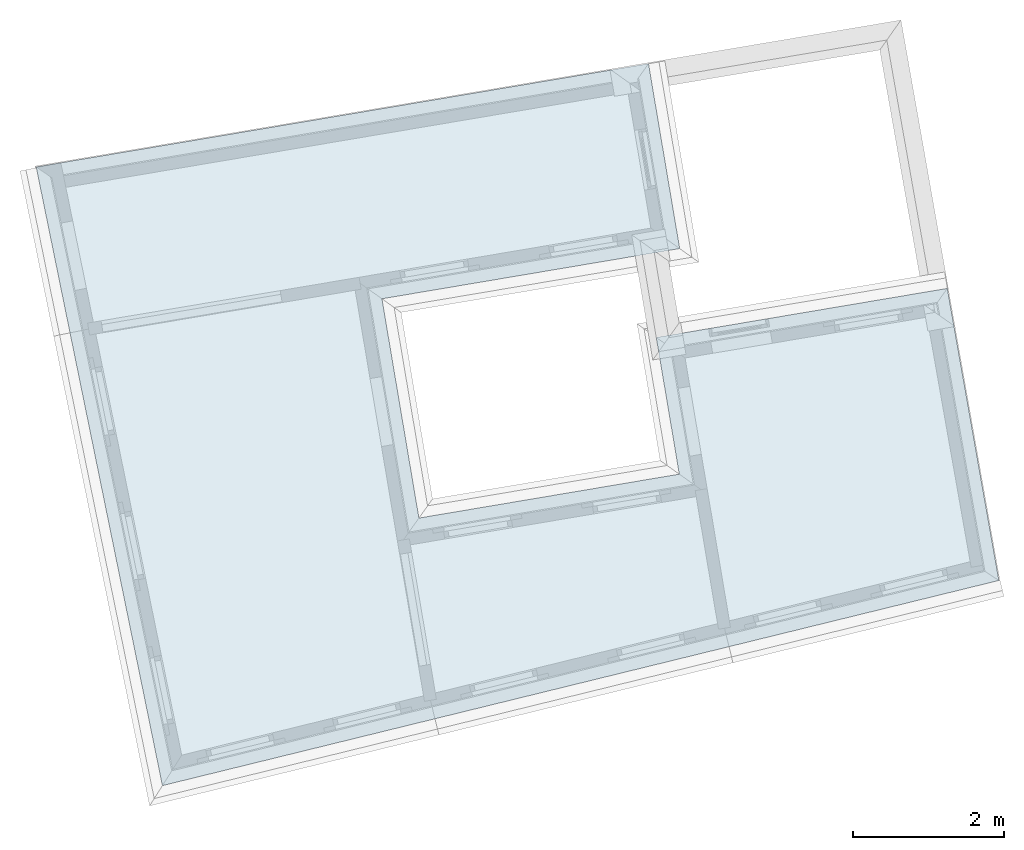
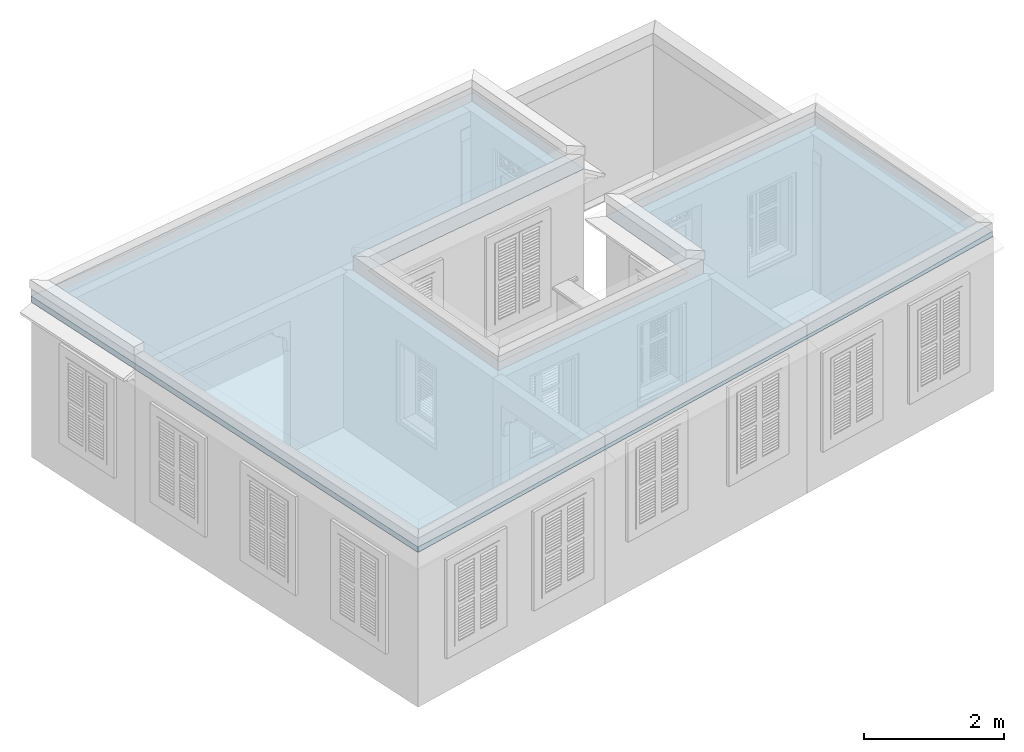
# One storey, part 12 of 12: 1 roof.
"""IFC4 building model written with IfcOpenShell, lengths in metres."""

from ifc_helpers import new_model, si_unit, frame, origin, origin_with_axes, place, context, subcontext, project, spatial, boolean, faceted_brep, element, save


model = new_model("IFC4")

# Units and contexts
model_context = context("Model", 3, world=origin_with_axes())
body_context = subcontext(model_context, "Body", "Model", "MODEL_VIEW")
ifc_project = project(units=[si_unit("PLANEANGLEUNIT", "RADIAN"), si_unit("MASSUNIT", "GRAM", prefix="KILO"), si_unit("FORCEUNIT", "NEWTON", prefix="KILO"), si_unit("LENGTHUNIT", "METRE"), si_unit("AREAUNIT", "SQUARE_METRE"), si_unit("VOLUMEUNIT", "CUBIC_METRE")], contexts=[model_context, model_context])

# Site, building, storey
site_placement = place(None, origin_with_axes())
site = spatial("IfcSite", under=ifc_project, at=site_placement, Name="Site plot-6", CompositionType="ELEMENT")
building_placement = place(None, origin_with_axes())
building = spatial("IfcBuilding", under=site, at=building_placement, Name="Building plot-6", CompositionType="ELEMENT")
storey_placement = place(None, frame((0.0, 0.0, 3.6), z_axis=(0.0, 0.0, 1.0), x_axis=(1.0, 0.0, 0.0)))
storey = spatial("IfcBuildingStorey", under=building, at=storey_placement, Name="plot-6 1", CompositionType="ELEMENT", Elevation=3.6)

# Roof
roof_placement = place(building_placement, origin())
element("IfcRoof", 1, at=roof_placement, inside=storey, Name="Roof", PredefinedType="FREEFORM", context=body_context, shape_type="CSG", body=[
    boolean("UNION", boolean("UNION", boolean("UNION", faceted_brep([(-5.732192, -3.031387, 6.3), (-7.070002, 4.901511, 6.3), (-11.224672, 4.200865, 6.405333), (-9.557375, -3.969589, 6.398198), (-9.557375, -3.969589, 6.3), (-11.224672, 4.200865, 6.3)], [[[0, 1, 2, 3]], [[4, 5, 1, 0]], [[3, 4, 0]], [[2, 1, 5]], [[2, 5, 4, 3]]]), faceted_brep([(1.126962, 0.794433, 6.3), (-10.141745, -1.10593, 6.3), (-9.557375, -3.969589, 6.373024), (1.49, -1.26, 6.352155), (1.49, -1.26, 6.3), (-9.557375, -3.969589, 6.3)], [[[0, 1, 2, 3]], [[4, 5, 1, 0]], [[3, 4, 0]], [[2, 1, 5]], [[2, 5, 4, 3]]])), faceted_brep([(-10.729361, 1.773637, 6.3), (-2.725771, 3.123368, 6.3), (-5.578806, 5.152988, 6.361895), (-11.224672, 4.200865, 6.361895), (-11.224672, 4.200865, 6.3), (-3.137479, 5.564695, 6.3)], [[[0, 1, 2, 3]], [[4, 5, 1, 0]], [[3, 4, 0]], [[2, 1, 5]], [[2, 5, 4, 3]]])), faceted_brep([(0.808429, 2.597014, 6.3), (-3.034768, 1.948895, 6.3), (1.479568, -1.262559, 6.397936), (1.49, -1.26, 6.397916), (1.49, -1.26, 6.3), (-2.33539, -2.198253, 6.3)], [[[0, 1, 2, 3]], [[4, 5, 1, 0]], [[3, 4, 0]], [[2, 1, 5]], [[2, 5, 4, 3]]])),
])

save(model, "model.ifc")
